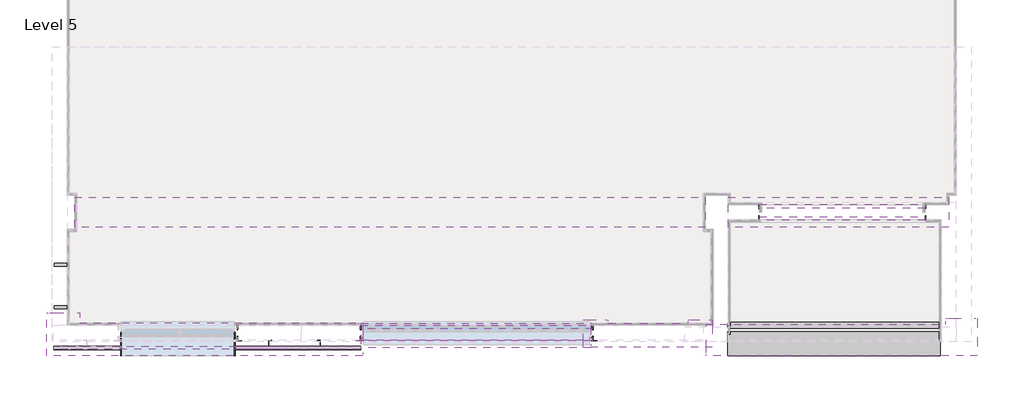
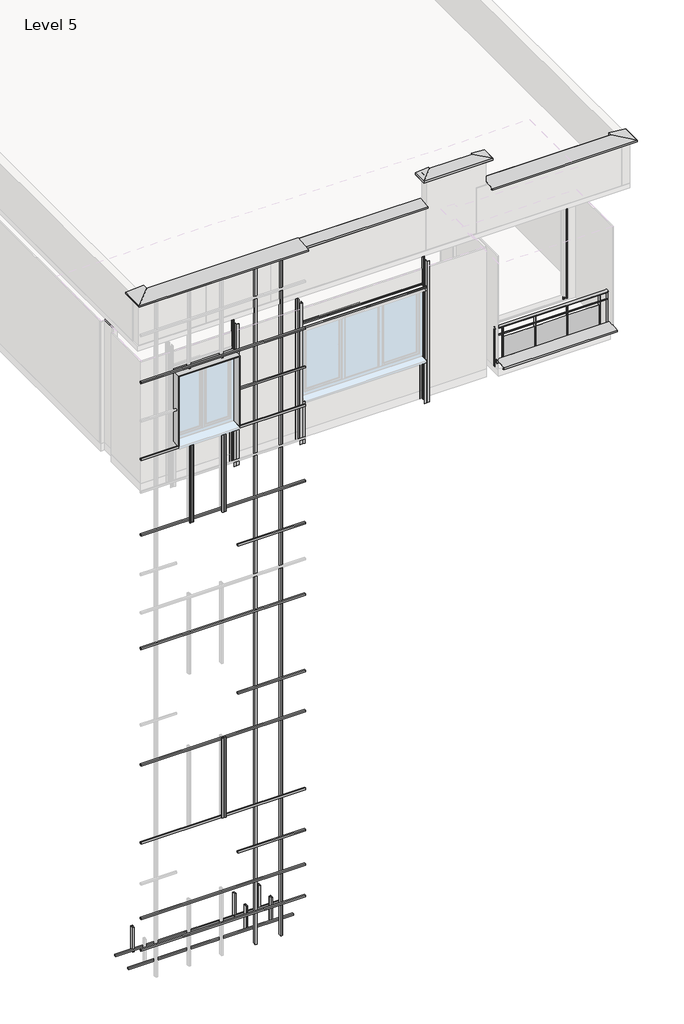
# One storey, part 2 of 2: 39 beams, 5 proxies, 1 railing.
"""IFC4 building model written with IfcOpenShell, lengths in millimetres."""

from ifc_helpers import new_model, si_unit, point, frame, frame_2d, origin, place, context, project, spatial, polyline, circle_curve, ellipse_curve, trimmed, segment, composite_curve, outline, extrude, faceted_brep, transform, mapped, element, save
from ifc_brep_helpers import plane_surface, cylinder_surface, revolved_surface, extruded_surface, advanced_brep
from components import bz1_40_profile_bz1_40_profile_67b9773f, bz1_40_profile_bz1_40_profile_404621f4, bz1_40_profile_bz1_40_profile_d9f1aa51, bz1_80_profile_bz1_80_profile_d67bf5f6, bz1_80_profile_bz1_80_profile_443fb40e, bz1_m_profile_bz1_m_profile_37837105, bz1_m_profile_bz1_m_profile_188adeeb, bz1_l_profile_t01_9d23476b, bz1_l_profile_t01_5d592bfc, bz1_wall_post_200_end_863f2b4e, bz1_wall_post_200_end_6934bf96, bz1_wall_post_200_end_fdf059dd, win_flashing3_win_flashing_c8dd44ad

model = new_model("IFC4")

# Units and contexts
model_context = context("Model", 3, world=origin())
ifc_project = project(units=[si_unit("LENGTHUNIT", "METRE", prefix="MILLI")], contexts=[model_context])

# Site, building, storey
site = spatial("IfcSite", under=ifc_project)
building = spatial("IfcBuilding", under=site)
storey = spatial("IfcBuildingStorey", under=building, Name="Level 5", Elevation=16000.0)

# Beams
placement = place(None, origin())
bz1_40_profile_bz1_40_profile_shape = bz1_40_profile_bz1_40_profile_67b9773f(model_context)
element("IfcBeam", 1, ObjectType="BZ1-40_Profile : BZ1-40_Profile", at=placement, inside=storey, context=model_context, shape_type="MappedRepresentation", body=[
    mapped(bz1_40_profile_bz1_40_profile_shape, transform((-2152.89946, -5799.4647185, 4856.6898939), x_axis=(1.0, 0.0, 0.0), y_axis=(0.0, 0.0, -1.0), z_axis=(0.0, 1.0, 0.0))),
])
element("IfcBeam", 2, ObjectType="BZ1-40_Profile : BZ1-40_Profile", at=placement, inside=storey, context=model_context, shape_type="MappedRepresentation", body=[
    mapped(bz1_40_profile_bz1_40_profile_shape, transform((-2152.89946, -5799.4647185, 14896.6898939), x_axis=(1.0, 0.0, 0.0), y_axis=(0.0, 0.0, -1.0), z_axis=(0.0, 1.0, 0.0))),
])
element("IfcBeam", 3, ObjectType="BZ1-40_Profile : BZ1-40_Profile", at=placement, inside=storey, context=model_context, shape_type="MappedRepresentation", body=[
    mapped(bz1_40_profile_bz1_40_profile_shape, transform((-2152.89946, -5799.4647185, 8876.6898939), x_axis=(1.0, 0.0, 0.0), y_axis=(0.0, 0.0, -1.0), z_axis=(0.0, 1.0, 0.0))),
])
element("IfcBeam", 4, ObjectType="BZ1-40_Profile : BZ1-40_Profile", at=placement, inside=storey, context=model_context, shape_type="MappedRepresentation", body=[
    mapped(bz1_40_profile_bz1_40_profile_shape, transform((-2152.89946, -5799.4647185, 18890.0), x_axis=(1.0, 0.0, 0.0), y_axis=(0.0, 1.0, 0.0), z_axis=(0.0, 0.0, 1.0))),
])
element("IfcBeam", 5, ObjectType="BZ1-40_Profile : BZ1-40_Profile", at=placement, inside=storey, context=model_context, shape_type="MappedRepresentation", body=[
    mapped(bz1_40_profile_bz1_40_profile_shape, transform((-2152.89946, -5799.4647185, 16880.0), x_axis=(1.0, 0.0, 0.0), y_axis=(0.0, 1.0, 0.0), z_axis=(0.0, 0.0, 1.0))),
])
element("IfcBeam", 6, ObjectType="BZ1-40_Profile : BZ1-40_Profile", at=placement, inside=storey, context=model_context, shape_type="MappedRepresentation", body=[
    mapped(bz1_40_profile_bz1_40_profile_shape, transform((-2152.89946, -5799.4647185, 11920.0), x_axis=(1.0, 0.0, 0.0), y_axis=(0.0, 1.0, 0.0), z_axis=(0.0, 0.0, 1.0))),
])
element("IfcBeam", 7, ObjectType="BZ1-40_Profile : BZ1-40_Profile", at=placement, inside=storey, context=model_context, shape_type="MappedRepresentation", body=[
    mapped(bz1_40_profile_bz1_40_profile_shape, transform((-2152.89946, -5799.4647185, 6836.6898939), x_axis=(1.0, 0.0, 0.0), y_axis=(0.0, 1.0, 0.0), z_axis=(0.0, 0.0, 1.0))),
])
element("IfcBeam", 8, ObjectType="BZ1-40_Profile : BZ1-40_Profile", at=placement, inside=storey, context=model_context, shape_type="MappedRepresentation", body=[
    mapped(bz1_40_profile_bz1_40_profile_shape, transform((-2152.89946, -5799.4647185, 4025.0), x_axis=(1.0, 0.0, 0.0), y_axis=(0.0, 1.0, 0.0), z_axis=(0.0, 0.0, 1.0))),
])
bz1_40_profile_bz1_40_profile_2_shape = bz1_40_profile_bz1_40_profile_404621f4(model_context)
element("IfcBeam", 9, ObjectType="BZ1-40_Profile : BZ1-40_Profile", at=placement, inside=storey, context=model_context, shape_type="MappedRepresentation", body=[
    mapped(bz1_40_profile_bz1_40_profile_2_shape, transform((-947.89946, -5799.4647185, 13796.6898939), x_axis=(1.0, 0.0, 0.0), y_axis=(0.0, 0.0, -1.0), z_axis=(0.0, 1.0, 0.0))),
])
element("IfcBeam", 10, ObjectType="BZ1-40_Profile : BZ1-40_Profile", at=placement, inside=storey, context=model_context, shape_type="MappedRepresentation", body=[
    mapped(bz1_40_profile_bz1_40_profile_2_shape, transform((-947.89946, -5799.4647185, 5756.6898939), x_axis=(1.0, 0.0, 0.0), y_axis=(0.0, 0.0, -1.0), z_axis=(0.0, 1.0, 0.0))),
])
element("IfcBeam", 11, ObjectType="BZ1-40_Profile : BZ1-40_Profile", at=placement, inside=storey, context=model_context, shape_type="MappedRepresentation", body=[
    mapped(bz1_40_profile_bz1_40_profile_2_shape, transform((-947.89946, -5799.4647185, 17876.6898939), x_axis=(1.0, 0.0, 0.0), y_axis=(0.0, 0.0, -1.0), z_axis=(0.0, 1.0, 0.0))),
])
element("IfcBeam", 12, ObjectType="BZ1-40_Profile : BZ1-40_Profile", at=placement, inside=storey, context=model_context, shape_type="MappedRepresentation", body=[
    mapped(bz1_40_profile_bz1_40_profile_2_shape, transform((-947.89946, -5799.4647185, 9916.6898939), x_axis=(1.0, 0.0, 0.0), y_axis=(0.0, 0.0, -1.0), z_axis=(0.0, 1.0, 0.0))),
])
bz1_40_profile_bz1_40_profile_3_shape = bz1_40_profile_bz1_40_profile_d9f1aa51(model_context)
element("IfcBeam", 13, ObjectType="BZ1-40_Profile : BZ1-40_Profile", at=placement, inside=storey, context=model_context, shape_type="MappedRepresentation", body=[
    mapped(bz1_40_profile_bz1_40_profile_3_shape, transform((-2138.1382924, -5258.9647185, 3215.1338493), x_axis=(-1.0, 0.0, 0.0), y_axis=(0.0, 1.0, 0.0), z_axis=(0.0, 0.0, -1.0))),
])
element("IfcBeam", 14, ObjectType="BZ1-40_Profile : BZ1-40_Profile", at=placement, inside=storey, context=model_context, shape_type="MappedRepresentation", body=[
    mapped(bz1_40_profile_bz1_40_profile_3_shape, transform((-2138.1382924, -4695.9913902, 3215.1338493), x_axis=(-1.0, 0.0, 0.0), y_axis=(0.0, 1.0, 0.0), z_axis=(0.0, 0.0, -1.0))),
])
bz1_80_profile_bz1_80_profile_shape = bz1_80_profile_bz1_80_profile_d67bf5f6(model_context)
element("IfcBeam", 15, ObjectType="BZ1-80_Profile : BZ1-80_Profile", at=placement, inside=storey, context=model_context, shape_type="MappedRepresentation", body=[
    mapped(bz1_80_profile_bz1_80_profile_shape, transform((-1313.0666589, -5738.9647185, 12079.0), x_axis=(0.0, 0.0, 1.0), y_axis=(-1.0, 0.0, 0.0), z_axis=(0.0, -1.0, 0.0))),
])
element("IfcBeam", 16, ObjectType="BZ1-80_Profile : BZ1-80_Profile", at=placement, inside=storey, context=model_context, shape_type="MappedRepresentation", body=[
    mapped(bz1_80_profile_bz1_80_profile_shape, transform((-673.0666589, -5738.9647185, 12079.0), x_axis=(0.0, 0.0, 1.0), y_axis=(-1.0, 0.0, 0.0), z_axis=(0.0, -1.0, 0.0))),
])
bz1_80_profile_bz1_80_profile_2_shape = bz1_80_profile_bz1_80_profile_443fb40e(model_context)
element("IfcBeam", 17, ObjectType="BZ1-80_Profile : BZ1-80_Profile", at=placement, inside=storey, context=model_context, shape_type="MappedRepresentation", body=[
    mapped(bz1_80_profile_bz1_80_profile_2_shape, transform((-1223.0666589, -5187.8329808, 3479.0), x_axis=(0.0, 0.0, 1.0), y_axis=(-1.0, 0.0, 0.0), z_axis=(0.0, -1.0, 0.0))),
])
element("IfcBeam", 18, ObjectType="BZ1-80_Profile : BZ1-80_Profile", at=placement, inside=storey, context=model_context, shape_type="MappedRepresentation", body=[
    mapped(bz1_80_profile_bz1_80_profile_2_shape, transform((-608.0666589, -5187.8329808, 3479.0), x_axis=(0.0, 0.0, 1.0), y_axis=(-1.0, 0.0, 0.0), z_axis=(0.0, -1.0, 0.0))),
])
element("IfcBeam", 19, ObjectType="BZ1-80_Profile : BZ1-80_Profile", at=placement, inside=storey, context=model_context, shape_type="MappedRepresentation", body=[
    mapped(bz1_80_profile_bz1_80_profile_2_shape, transform((-3733.0666589, -4668.8329808, 3479.0), x_axis=(0.0, 0.0, 1.0), y_axis=(-1.0, 0.0, 0.0), z_axis=(0.0, -1.0, 0.0))),
])
element("IfcBeam", 20, ObjectType="BZ1-80_Profile : BZ1-80_Profile", at=placement, inside=storey, context=model_context, shape_type="MappedRepresentation", body=[
    mapped(bz1_80_profile_bz1_80_profile_2_shape, transform((-1213.0666589, -4668.8329808, 3479.0), x_axis=(0.0, 0.0, 1.0), y_axis=(-1.0, 0.0, 0.0), z_axis=(0.0, -1.0, 0.0))),
])
element("IfcBeam", 21, ObjectType="BZ1-80_Profile : BZ1-80_Profile", at=placement, inside=storey, context=model_context, shape_type="MappedRepresentation", body=[
    mapped(bz1_80_profile_bz1_80_profile_2_shape, transform((-608.0666589, -4668.8329808, 3479.0), x_axis=(0.0, 0.0, 1.0), y_axis=(-1.0, 0.0, 0.0), z_axis=(0.0, -1.0, 0.0))),
])
bz1_m_profile_bz1_m_profile_shape = bz1_m_profile_bz1_m_profile_37837105(model_context)
element("IfcBeam", 22, ObjectType="BZ1-M_Profile : BZ1-M_Profile", at=placement, inside=storey, context=model_context, shape_type="MappedRepresentation", body=[
    mapped(bz1_m_profile_bz1_m_profile_shape, transform((-2144.3166589, -5821.9647185, 15858.5), x_axis=(0.0, 0.0, -1.0), y_axis=(1.0, 0.0, 0.0), z_axis=(0.0, -1.0, 0.0))),
])
element("IfcBeam", 23, ObjectType="BZ1-M_Profile : BZ1-M_Profile", at=placement, inside=storey, context=model_context, shape_type="MappedRepresentation", body=[
    mapped(bz1_m_profile_bz1_m_profile_shape, transform((-2944.3166589, -5821.9647185, 15858.5), x_axis=(0.0, 0.0, -1.0), y_axis=(1.0, 0.0, 0.0), z_axis=(0.0, -1.0, 0.0))),
])
bz1_m_profile_bz1_m_profile_2_shape = bz1_m_profile_bz1_m_profile_188adeeb(model_context)
element("IfcBeam", 24, ObjectType="BZ1-M_Profile : BZ1-M_Profile", at=placement, inside=storey, context=model_context, shape_type="MappedRepresentation", body=[
    mapped(bz1_m_profile_bz1_m_profile_2_shape, transform((-2144.3166589, -5821.9647185, 7852.5), x_axis=(0.0, 0.0, -1.0), y_axis=(1.0, 0.0, 0.0), z_axis=(0.0, -1.0, 0.0))),
])
element("IfcBeam", 25, ObjectType="BZ1_L Profile : T01", at=placement, inside=storey, context=model_context, shape_type="SweptSolid", body=[
    extrude(outline(composite_curve([segment(trimmed(circle_curve(frame_2d((-5497.4647185, 18851.5)), 3.5), [point((-5500.9647185, 18851.5))], [point((-5497.4647185, 18855.0))], False, "CARTESIAN"), True, "CONTINUOUS"), segment(polyline([(-5497.4647185, 18855.0), (-5495.9647185, 18855.0), (-5495.9647185, 18805.0), (-5545.9647185, 18805.0), (-5545.9647185, 18806.5)]), True, "CONTINUOUS"), segment(trimmed(circle_curve(frame_2d((-5542.4647185, 18806.5)), 3.5), [point((-5545.9647185, 18806.5))], [point((-5542.4647185, 18810.0))], False, "CARTESIAN"), True, "CONTINUOUS"), segment(polyline([(-5542.4647185, 18810.0), (-5507.9647185, 18810.0)]), True, "CONTINUOUS"), segment(trimmed(circle_curve(frame_2d((-5507.9647185, 18817.0)), 7.0), [point((-5507.9647185, 18810.0))], [point((-5500.9647185, 18817.0))], True, "CARTESIAN"), True, "CONTINUOUS"), segment(polyline([(-5500.9647185, 18817.0), (-5500.9647185, 18851.5)]), True, "CONTINUOUS")], self_intersect=False)), frame((-115.5666589, 0.0, 0.0), z_axis=(1.0, 0.0, 0.0), x_axis=(0.0, 1.0, 0.0)), (0.0, 0.0, 1.0), 3080.0),
])
element("IfcBeam", 26, ObjectType="BZ1_L Profile : T01", at=placement, inside=storey, context=model_context, shape_type="AdvancedBrep", body=[
    advanced_brep(
    [(-115.5666589, -5659.4647185, 18810.0), (-115.5666589, -5655.9647185, 18806.5), (-115.5666589, -5655.9647185, 18805.0), (-115.5666589, -5705.9647185, 18805.0), (-115.5666589, -5705.9647185, 18855.0), (-115.5666589, -5704.4647185, 18855.0), (-115.5666589, -5700.9647185, 18851.5), (-115.5666589, -5700.9647185, 18817.0), (-115.5666589, -5693.9647185, 18810.0), (2964.4333411, -5659.4647185, 18810.0), (2964.4333411, -5693.0356138, 18810.0), (2964.4333411, -5693.9647185, 18810.0), (2964.4333411, -5700.9647185, 18817.0), (2964.4333411, -5700.9647185, 18851.5), (2964.4333411, -5704.4647185, 18855.0), (2964.4333411, -5705.9647185, 18855.0), (2964.4333411, -5705.9647185, 18805.0), (2964.4333411, -5655.9647185, 18805.0), (2964.4333411, -5655.9647185, 18806.5), (-100.2322612, -5693.9647185, 18810.0), (-100.2322612, -5659.4647185, 18810.0), (2924.4333411, -5693.9647185, 18810.0), (-100.2322612, -5705.9647185, 18805.0), (-100.2322612, -5705.9647185, 18810.0), (2924.4333411, -5705.9647185, 18810.0), (2924.4333411, -5705.9647185, 18805.0), (-100.2322612, -5655.9647185, 18805.0), (-100.2322612, -5655.9647185, 18806.5), (2924.4333411, -5655.9647185, 18806.5), (2924.4333411, -5659.4647185, 18810.0), (2924.4333411, -5700.9799478, 18810.0), (-100.2322612, -5700.9799478, 18810.0), (2924.4333411, -5655.9647185, 18805.0)],
    [
        (0, 1, circle_curve(frame((-115.5666589, -5659.4647185, 18806.5), z_axis=(-1.0, 0.0, 0.0), x_axis=(0.0, 1.0, 0.0)), 3.5)),
        (1, 2),
        (2, 3),
        (3, 4),
        (4, 5),
        (5, 6, circle_curve(frame((-115.5666589, -5704.4647185, 18851.5), z_axis=(-1.0, 0.0, 0.0), x_axis=(0.0, 1.0, 0.0)), 3.5)),
        (6, 7),
        (7, 8, circle_curve(frame((-115.5666589, -5693.9647185, 18817.0), z_axis=(1.0, 0.0, 0.0), x_axis=(0.0, 1.0, 0.0)), 7.0)),
        (8, 0),
        (9, 10),
        (10, 11),
        (11, 12, circle_curve(frame((2964.4333411, -5693.9647185, 18817.0), z_axis=(-1.0, 0.0, 0.0), x_axis=(0.0, 1.0, 0.0)), 7.0)),
        (12, 13),
        (13, 14, circle_curve(frame((2964.4333411, -5704.4647185, 18851.5), z_axis=(1.0, 0.0, 0.0), x_axis=(0.0, 1.0, 0.0)), 3.5)),
        (14, 15),
        (15, 16),
        (16, 17),
        (17, 18),
        (18, 9, circle_curve(frame((2964.4333411, -5659.4647185, 18806.5), z_axis=(1.0, 0.0, 0.0), x_axis=(0.0, 1.0, 0.0)), 3.5)),
        (8, 19),
        (19, 20),
        (20, 0),
        (7, 12),
        (11, 21),
        (21, 19),
        (6, 13),
        (5, 14),
        (4, 15),
        (3, 22),
        (22, 23),
        (23, 24),
        (24, 25),
        (25, 16),
        (2, 26),
        (26, 22),
        (1, 27),
        (27, 26),
        (18, 28),
        (28, 29, circle_curve(frame((2924.4333411, -5659.4647185, 18806.5), z_axis=(1.0, 0.0, 0.0), x_axis=(0.0, 1.0, 0.0)), 3.5)),
        (29, 9),
        (21, 30),
        (30, 24),
        (23, 31),
        (31, 19),
        (21, 29),
        (28, 32),
        (32, 25),
        (27, 20, circle_curve(frame((-100.2322612, -5659.4647185, 18806.5), z_axis=(1.0, 0.0, 0.0), x_axis=(0.0, 1.0, 0.0)), 3.5)),
        (32, 17),
    ],
    [
        plane_surface(frame((-115.5666589, -5700.9647185, 18810.0), z_axis=(-1.0, 0.0, 0.0), x_axis=(0.0, 0.0, -1.0))),
        plane_surface(frame((2964.4333411, -5700.9647185, 18810.0), z_axis=(1.0, 0.0, 0.0), x_axis=(0.0, 0.0, -1.0))),
        plane_surface(frame((-115.5666589, -5659.4647185, 18810.0), z_axis=(0.0, 0.0, 1.0), x_axis=(1.0, 0.0, 0.0))),
        revolved_surface(polyline([(2964.4333411, -5686.9647185, 18817.0), (-115.5666589, -5686.9647185, 18817.0)]), (-115.5666589, -5693.9647185, 18817.0), (1.0, 0.0, 0.0)),
        plane_surface(frame((-115.5666589, -5700.9647185, 18817.0), z_axis=(0.0, 1.0, 0.0), x_axis=(1.0, 0.0, 0.0))),
        cylinder_surface(frame((-115.5666589, -5704.4647185, 18851.5), z_axis=(-1.0, 0.0, 0.0), x_axis=(0.0, 1.0, 0.0)), 3.5),
        plane_surface(frame((-115.5666589, -5704.4647185, 18855.0), z_axis=(0.0, 0.0, 1.0), x_axis=(1.0, 0.0, 0.0))),
        plane_surface(frame((-115.5666589, -5705.9647185, 18855.0), z_axis=(0.0, -1.0, 0.0), x_axis=(1.0, 0.0, 0.0))),
        plane_surface(frame((-115.5666589, -5705.9647185, 18805.0), z_axis=(0.0, 0.0, -1.0), x_axis=(1.0, 0.0, 0.0))),
        plane_surface(frame((-115.5666589, -5655.9647185, 18805.0), z_axis=(0.0, 1.0, 0.0), x_axis=(1.0, 0.0, 0.0))),
        cylinder_surface(frame((-115.5666589, -5659.4647185, 18806.5), z_axis=(-1.0, 0.0, 0.0), x_axis=(0.0, 1.0, 0.0)), 3.5),
        plane_surface(frame((2969.4333411, -5567.6133875, 18810.0), z_axis=(0.0, 0.0, -1.0), x_axis=(-1.0, 0.0, 0.0))),
        plane_surface(frame((2924.4333411, -5567.6133875, 18770.0), z_axis=(-1.0, 0.0, 0.0), x_axis=(0.0, 0.0, 1.0))),
        plane_surface(frame((-100.2322612, -5743.4647185, 18770.0), z_axis=(1.0, 0.0, 0.0), x_axis=(0.0, 0.0, 1.0))),
    ],
    [
        (0, [[1, 2, 3, 4, 5, 6, 7, 8, 9]]),
        (1, [[10, 11, 12, 13, 14, 15, 16, 17, 18, 19]]),
        (2, [[-9, 20, 21, 22]]),
        (3, [[-8, 23, -12, 24, 25, -20]]),
        (4, [[-7, 26, -13, -23]]),
        (5, [[-6, 27, -14, -26]]),
        (6, [[-5, 28, -15, -27]]),
        (7, [[-4, 29, 30, 31, 32, 33, -16, -28]]),
        (8, [[-3, 34, 35, -29]]),
        (9, [[-2, 36, 37, -34]]),
        (10, [[-19, 38, 39, 40]]),
        (11, [[41, 42, -31, 43, 44, -25]]),
        (12, [[-42, -41, 45, -39, 46, 47, -32]]),
        (13, [[-44, -43, -30, -35, -37, 48, -21]]),
        (2, [[-11, -10, -40, -45, -24]]),
        (8, [[-17, -33, -47, 49]]),
        (9, [[-18, -49, -46, -38]]),
        (10, [[-1, -22, -48, -36]]),
    ],
),
])
bz1_l_profile_t01_shape = bz1_l_profile_t01_9d23476b(model_context)
element("IfcBeam", 27, ObjectType="BZ1_L Profile : T01", at=placement, inside=storey, context=model_context, shape_type="MappedRepresentation", body=[
    mapped(bz1_l_profile_t01_shape, transform((5174.4333411, -4100.9647185, 18405.0), x_axis=(1.0, 0.0, 0.0), y_axis=(0.0, -1.0, 0.0), z_axis=(0.0, 0.0, -1.0))),
])
bz1_l_profile_t01_2_shape = bz1_l_profile_t01_5d592bfc(model_context)
element("IfcBeam", 28, ObjectType="BZ1_L Profile : T01", at=placement, inside=storey, context=model_context, shape_type="MappedRepresentation", body=[
    mapped(bz1_l_profile_t01_2_shape, transform((5174.4333411, -3900.9647185, 18405.0), x_axis=(1.0, 0.0, 0.0), y_axis=(0.0, -1.0, 0.0), z_axis=(0.0, 0.0, -1.0))),
])
bz1_wall_post_200_end_shape = bz1_wall_post_200_end_863f2b4e(model_context)
element("IfcBeam", 29, ObjectType="BZ1_Wall post : 200 END", at=placement, inside=storey, context=model_context, shape_type="MappedRepresentation", body=[
    mapped(bz1_wall_post_200_end_shape, transform((5174.4333411, -4000.9647185, 16000.0), x_axis=(-1.0, 0.0, 0.0), y_axis=(0.0, -1.0, 0.0), z_axis=(0.0, 0.0, 1.0))),
])
element("IfcBeam", 30, ObjectType="BZ1_Wall post : 200 END", at=placement, inside=storey, context=model_context, shape_type="MappedRepresentation", body=[
    mapped(bz1_wall_post_200_end_shape, transform((7374.4333411, -4000.9647185, 15800.0), x_axis=(1.0, 0.0, 0.0), y_axis=(0.0, 1.0, 0.0), z_axis=(0.0, 0.0, 1.0))),
])
element("IfcBeam", 31, ObjectType="BZ1_Wall post : 200 END", at=placement, inside=storey, context=model_context, shape_type="MappedRepresentation", body=[
    mapped(bz1_wall_post_200_end_shape, transform((-1750.5666589, -5600.9647185, 15800.0), x_axis=(1.0, 0.0, 0.0), y_axis=(0.0, 1.0, 0.0), z_axis=(0.0, 0.0, 1.0))),
])
element("IfcBeam", 32, ObjectType="BZ1_Wall post : 200 END", at=placement, inside=storey, context=model_context, shape_type="MappedRepresentation", body=[
    mapped(bz1_wall_post_200_end_shape, transform((2964.4333411, -5600.9647185, 15800.0), x_axis=(1.0, 0.0, 0.0), y_axis=(0.0, 1.0, 0.0), z_axis=(0.0, 0.0, 1.0))),
])
element("IfcBeam", 33, ObjectType="BZ1_Wall post : 200 END", at=placement, inside=storey, context=model_context, shape_type="MappedRepresentation", body=[
    mapped(bz1_wall_post_200_end_shape, transform((-115.5666589, -5600.9647185, 15800.0), x_axis=(-1.0, 0.0, 0.0), y_axis=(0.0, -1.0, 0.0), z_axis=(0.0, 0.0, 1.0))),
])
bz1_wall_post_200_end_2_shape = bz1_wall_post_200_end_6934bf96(model_context)
element("IfcBeam", 34, ObjectType="BZ1_Wall post : 200 END", at=placement, inside=storey, context=model_context, shape_type="MappedRepresentation", body=[
    mapped(bz1_wall_post_200_end_2_shape, transform((-115.5666589, -5600.9647185, 15800.0), x_axis=(1.0, 0.0, 0.0), y_axis=(0.0, 1.0, 0.0), z_axis=(0.0, 0.0, 1.0))),
])
bz1_wall_post_200_end_3_shape = bz1_wall_post_200_end_fdf059dd(model_context)
element("IfcBeam", 35, ObjectType="BZ1_Wall post : 200 END", at=placement, inside=storey, context=model_context, shape_type="MappedRepresentation", body=[
    mapped(bz1_wall_post_200_end_3_shape, transform((2964.4333411, -5600.9647185, 15800.0), x_axis=(-1.0, 0.0, 0.0), y_axis=(0.0, -1.0, 0.0), z_axis=(0.0, 0.0, 1.0))),
])
element("IfcBeam", 36, ObjectType="BZ1_Wall post : 200 END", at=placement, inside=storey, context=model_context, shape_type="MappedRepresentation", body=[
    mapped(bz1_wall_post_200_end_3_shape, transform((-1750.5666589, -5600.9647185, 15800.0), x_axis=(-1.0, 0.0, 0.0), y_axis=(0.0, -1.0, 0.0), z_axis=(0.0, 0.0, 1.0))),
])
element("IfcBeam", 37, ObjectType="M_Concrete-Rectangular Beam : 400 x 600mm", at=placement, inside=storey, context=model_context, shape_type="SweptSolid", body=[
    extrude(outline(polyline([(4459.4333411, -3800.9647185), (4459.4333411, -4200.9647185), (-3910.5666589, -4200.9647185), (-3910.5666589, -3800.9647185), (4459.4333411, -3800.9647185)])), frame((0.0, 0.0, 19200.0), z_axis=(0.0, 0.0, 1.0), x_axis=(1.0, 0.0, 0.0)), (0.0, 0.0, 1.0), 470.0),
])
element("IfcBeam", 38, ObjectType="M_Concrete-Rectangular Beam : 400 x 600mm", at=placement, inside=storey, context=model_context, shape_type="SweptSolid", body=[
    extrude(outline(polyline([(4759.4333411, -4200.9647185), (4759.4333411, -3800.9647185), (7689.4333411, -3800.9647185), (7689.4333411, -4200.9647185), (4759.4333411, -4200.9647185)])), frame((0.0, 0.0, 19200.0), z_axis=(0.0, 0.0, 1.0), x_axis=(1.0, 0.0, 0.0)), (0.0, 0.0, 1.0), 470.0),
])
win_flashing3_win_flashing_shape = win_flashing3_win_flashing_c8dd44ad(model_context)
element("IfcBeam", 39, ObjectType="win-flashing3 : win-flashing", at=placement, inside=storey, context=model_context, shape_type="MappedRepresentation", body=[
    mapped(win_flashing3_win_flashing_shape, transform((0.0, 0.0, 0.0), x_axis=(1.0, 0.0, 0.0), y_axis=(0.0, 1.0, 0.0), z_axis=(0.0, 0.0, 1.0))),
])

# Proxies
element("IfcBuildingElementProxy", 40, Name="Wall Sweeps", at=placement, inside=storey, context=model_context, shape_type="SweptSolid", body=[
    extrude(outline(polyline([(-5906.4010883, 16209.8257), (-5584.774646, 16239.7589035), (-5584.774646, 16153.8282212), (-5584.774646, 16141.454394), (-5614.774646, 16141.454394), (-5614.774646, 16155.8282212), (-5612.774646, 16155.8282212), (-5612.774646, 16143.454394), (-5586.774646, 16143.454394), (-5586.774646, 16237.564124), (-5904.4010883, 16208.0031934), (-5904.4010883, 16163.454394), (-5864.4010883, 16163.454394), (-5864.4010883, 16141.454394), (-5866.4010883, 16141.454394), (-5866.4010883, 16161.454394), (-5906.4010883, 16161.454394), (-5906.4010883, 16209.8257)])), frame((4754.9516805, 0.0, 0.0), z_axis=(1.0, 0.0, 0.0), x_axis=(0.0, 1.0, 0.0)), (0.0, 0.0, 1.0), 2819.4763902),
])
element("IfcBuildingElementProxy", 41, Name="BZ1_Roof flash25", ObjectType="BZ1_Roof flash25", at=placement, inside=storey, context=model_context, shape_type="SweptSolid", body=[
    extrude(outline(polyline([(-5794.5103245, 20997.3257), (-5472.8838822, 21027.2589035), (-5472.8838822, 20941.3282212), (-5472.8838822, 20928.954394), (-5502.8838822, 20928.954394), (-5502.8838822, 20943.3282212), (-5500.8838822, 20943.3282212), (-5500.8838822, 20930.954394), (-5474.8838822, 20930.954394), (-5474.8838822, 21025.064124), (-5792.5103245, 20995.5031934), (-5792.5103245, 20950.954394), (-5752.5103245, 20950.954394), (-5752.5103245, 20928.954394), (-5754.5103245, 20928.954394), (-5754.5103245, 20948.954394), (-5794.5103245, 20948.954394), (-5794.5103245, 20997.3257)])), frame((-109.3166589, 0.0, 0.0), z_axis=(1.0, 0.0, 0.0), x_axis=(0.0, 1.0, 0.0)), (0.0, 0.0, 1.0), 3048.75),
])
element("IfcBuildingElementProxy", 42, Name="BZ1_Roof flash25", ObjectType="BZ1_Roof flash25", at=placement, inside=storey, context=model_context, shape_type="Brep", body=[
    faceted_brep([(3161.9340046, -5471.4181034, 21724.6327255), (2840.3075623, -5793.0445457, 21694.699522), (4552.3987743, -5793.0445457, 21694.699522), (4230.772332, -5471.4181034, 21724.6327255), (3161.9340046, -5471.4181034, 21638.7020432), (4230.772332, -5471.4181034, 21638.7020432), (3161.9340046, -5471.4181034, 21626.328216), (4230.772332, -5471.4181034, 21626.328216), (3131.9340046, -5501.4181034, 21626.328216), (4260.772332, -5501.4181034, 21626.328216), (3131.9340046, -5501.4181034, 21640.7020432), (4260.772332, -5501.4181034, 21640.7020432), (3133.9340046, -5499.4181034, 21628.328216), (3133.9340046, -5499.4181034, 21640.7020432), (4258.772332, -5499.4181034, 21640.7020432), (4258.772332, -5499.4181034, 21628.328216), (3159.9340046, -5473.4181034, 21628.328216), (4232.772332, -5473.4181034, 21628.328216), (3159.9340046, -5473.4181034, 21722.437946), (4232.772332, -5473.4181034, 21722.437946), (2842.3075623, -5791.0445457, 21692.8770154), (4550.3987743, -5791.0445457, 21692.8770154), (2842.3075623, -5791.0445457, 21648.328216), (4550.3987743, -5791.0445457, 21648.328216), (2882.3075623, -5751.0445457, 21648.328216), (4510.3987743, -5751.0445457, 21648.328216), (2882.3075623, -5751.0445457, 21626.328216), (4510.3987743, -5751.0445457, 21626.328216), (2880.3075623, -5753.0445457, 21626.328216), (4512.3987743, -5753.0445457, 21626.328216), (2880.3075623, -5753.0445457, 21646.328216), (4512.3987743, -5753.0445457, 21646.328216), (2840.3075623, -5793.0445457, 21646.328216), (4552.3987743, -5793.0445457, 21646.328216), (2840.3075623, -5426.9989397, 21694.699522), (3161.9340046, -5426.9989397, 21724.6327255), (3161.9340046, -5426.9989397, 21638.7020432), (3161.9340046, -5426.9989397, 21626.328216), (3131.9340046, -5426.9989397, 21626.328216), (3131.9340046, -5426.9989397, 21640.7020432), (3133.9340046, -5426.9989397, 21640.7020432), (3133.9340046, -5426.9989397, 21628.328216), (3159.9340046, -5426.9989397, 21628.328216), (3159.9340046, -5426.9989397, 21722.437946), (2842.3075623, -5426.9989397, 21692.8770154), (2842.3075623, -5426.9989397, 21648.328216), (2882.3075623, -5426.9989397, 21648.328216), (2882.3075623, -5426.9989397, 21626.328216), (2880.3075623, -5426.9989397, 21626.328216), (2880.3075623, -5426.9989397, 21646.328216), (2840.3075623, -5426.9989397, 21646.328216), (4552.3987743, -5426.9989397, 21694.699522), (4552.3987743, -5426.9989397, 21646.328216), (4512.3987743, -5426.9989397, 21646.328216), (4512.3987743, -5426.9989397, 21626.328216), (4510.3987743, -5426.9989397, 21626.328216), (4510.3987743, -5426.9989397, 21648.328216), (4550.3987743, -5426.9989397, 21648.328216), (4550.3987743, -5426.9989397, 21692.8770154), (4232.772332, -5426.9989397, 21722.437946), (4232.772332, -5426.9989397, 21628.328216), (4258.772332, -5426.9989397, 21628.328216), (4258.772332, -5426.9989397, 21640.7020432), (4260.772332, -5426.9989397, 21640.7020432), (4260.772332, -5426.9989397, 21626.328216), (4230.772332, -5426.9989397, 21626.328216), (4230.772332, -5426.9989397, 21638.7020432), (4230.772332, -5426.9989397, 21724.6327255)], [[[0, 1, 2, 3]], [[4, 0, 3, 5]], [[6, 4, 5, 7]], [[8, 6, 7, 9]], [[10, 8, 9, 11]], [[12, 13, 14, 15]], [[16, 12, 15, 17]], [[18, 16, 17, 19]], [[20, 18, 19, 21]], [[22, 20, 21, 23]], [[24, 22, 23, 25]], [[26, 24, 25, 27]], [[28, 26, 27, 29]], [[30, 28, 29, 31]], [[32, 30, 31, 33]], [[1, 32, 33, 2]], [[34, 35, 36, 37, 38, 39, 40, 41, 42, 43, 44, 45, 46, 47, 48, 49, 50]], [[35, 34, 1, 0]], [[36, 35, 0, 4]], [[37, 36, 4, 6]], [[38, 37, 6, 8]], [[39, 38, 8, 10]], [[41, 40, 13, 12]], [[42, 41, 12, 16]], [[43, 42, 16, 18]], [[44, 43, 18, 20]], [[45, 44, 20, 22]], [[46, 45, 22, 24]], [[47, 46, 24, 26]], [[48, 47, 26, 28]], [[49, 48, 28, 30]], [[50, 49, 30, 32]], [[34, 50, 32, 1]], [[51, 52, 53, 54, 55, 56, 57, 58, 59, 60, 61, 62, 63, 64, 65, 66, 67]], [[3, 2, 51, 67]], [[5, 3, 67, 66]], [[7, 5, 66, 65]], [[9, 7, 65, 64]], [[11, 9, 64, 63]], [[15, 14, 62, 61]], [[17, 15, 61, 60]], [[19, 17, 60, 59]], [[21, 19, 59, 58]], [[23, 21, 58, 57]], [[25, 23, 57, 56]], [[27, 25, 56, 55]], [[29, 27, 55, 54]], [[31, 29, 54, 53]], [[33, 31, 53, 52]], [[2, 33, 52, 51]], [[40, 39, 10, 13]], [[13, 10, 11, 14]], [[14, 11, 63, 62]]]),
])
element("IfcBuildingElementProxy", 43, Name="BZ1_Roof flash3", ObjectType="BZ1_Roof flash3", at=placement, inside=storey, context=model_context, shape_type="Brep", body=[
    faceted_brep([(-89.3166589, -5907.0103245, 20999.5881948), (-89.3166589, -5907.0103245, 20961.454394), (-89.3166589, -5867.0103245, 20961.454394), (-89.3166589, -5867.0103245, 20941.454394), (-89.3166589, -5865.0103245, 20941.454394), (-89.3166589, -5865.0103245, 20963.454394), (-89.3166589, -5905.0103245, 20963.454394), (-89.3166589, -5905.0103245, 20997.7656882), (-89.3166589, -5469.8838822, 21038.2621358), (-89.3166589, -5469.8838822, 20943.454394), (-89.3166589, -5495.8838822, 20943.454394), (-89.3166589, -5495.8838822, 20955.8282212), (-89.3166589, -5497.8838822, 20955.8282212), (-89.3166589, -5497.8838822, 20941.454394), (-89.3166589, -5467.8838822, 20941.454394), (-89.3166589, -5467.8838822, 20953.8282212), (-89.3166589, -5467.8838822, 21040.4569152), (-3844.9858226, -5467.8838822, 21040.4569152), (-4284.1122649, -5907.0103245, 20999.5881948), (-3844.9858226, -5467.8838822, 20953.8282212), (-3844.9858226, -5467.8838822, 20941.454394), (-3874.9858226, -5497.8838822, 20941.454394), (-3874.9858226, -5497.8838822, 20955.8282212), (-3872.9858226, -5495.8838822, 20955.8282212), (-3872.9858226, -5495.8838822, 20943.454394), (-3846.9858226, -5469.8838822, 20943.454394), (-3846.9858226, -5469.8838822, 21038.2621358), (-4282.1122649, -5905.0103245, 20997.7656882), (-4282.1122649, -5905.0103245, 20963.454394), (-4242.1122649, -5865.0103245, 20963.454394), (-4242.1122649, -5865.0103245, 20941.454394), (-4244.1122649, -5867.0103245, 20941.454394), (-4244.1122649, -5867.0103245, 20961.454394), (-4284.1122649, -5907.0103245, 20961.454394), (-4284.1122649, -5333.4647185, 20999.5881948), (-3844.9858226, -5333.4647185, 21040.4569152), (-3844.9858226, -5333.4647185, 20953.8282212), (-3844.9858226, -5333.4647185, 20941.454394), (-3874.9858226, -5333.4647185, 20941.454394), (-3874.9858226, -5333.4647185, 20955.8282212), (-3872.9858226, -5333.4647185, 20955.8282212), (-3872.9858226, -5333.4647185, 20943.454394), (-3846.9858226, -5333.4647185, 20943.454394), (-3846.9858226, -5333.4647185, 21038.2621358), (-4282.1122649, -5333.4647185, 20997.7656882), (-4282.1122649, -5333.4647185, 20963.454394), (-4242.1122649, -5333.4647185, 20963.454394), (-4242.1122649, -5333.4647185, 20941.454394), (-4244.1122649, -5333.4647185, 20941.454394), (-4244.1122649, -5333.4647185, 20961.454394), (-4284.1122649, -5333.4647185, 20961.454394)], [[[0, 1, 2, 3, 4, 5, 6, 7, 8, 9, 10, 11, 12, 13, 14, 15, 16]], [[17, 18, 0, 16]], [[19, 17, 16, 15]], [[20, 19, 15, 14]], [[21, 20, 14, 13]], [[22, 21, 13, 12]], [[23, 22, 12, 11]], [[24, 23, 11, 10]], [[25, 24, 10, 9]], [[26, 25, 9, 8]], [[27, 26, 8, 7]], [[28, 27, 7, 6]], [[29, 28, 6, 5]], [[30, 29, 5, 4]], [[31, 30, 4, 3]], [[32, 31, 3, 2]], [[33, 32, 2, 1]], [[18, 33, 1, 0]], [[34, 35, 36, 37, 38, 39, 40, 41, 42, 43, 44, 45, 46, 47, 48, 49, 50]], [[35, 34, 18, 17]], [[36, 35, 17, 19]], [[37, 36, 19, 20]], [[38, 37, 20, 21]], [[39, 38, 21, 22]], [[40, 39, 22, 23]], [[41, 40, 23, 24]], [[42, 41, 24, 25]], [[43, 42, 25, 26]], [[44, 43, 26, 27]], [[45, 44, 27, 28]], [[46, 45, 28, 29]], [[47, 46, 29, 30]], [[48, 47, 30, 31]], [[49, 48, 31, 32]], [[50, 49, 32, 33]], [[34, 50, 33, 18]]]),
])
element("IfcBuildingElementProxy", 44, Name="BZ1_Roof flash36", ObjectType="BZ1_Roof flash36", at=placement, inside=storey, context=model_context, shape_type="Brep", body=[
    faceted_brep([(4469.9516805, -5907.0103245, 21003.0188771), (4469.9516805, -5485.3838822, 21042.2589035), (4469.9516805, -5485.3838822, 20956.3282212), (4469.9516805, -5485.3838822, 20943.954394), (4469.9516805, -5515.3838822, 20943.954394), (4469.9516805, -5515.3838822, 20958.3282212), (4469.9516805, -5513.3838822, 20958.3282212), (4469.9516805, -5513.3838822, 20945.954394), (4469.9516805, -5487.3838822, 20945.954394), (4469.9516805, -5487.3838822, 21040.064124), (4469.9516805, -5905.0103245, 21001.1963705), (4469.9516805, -5905.0103245, 20965.954394), (4469.9516805, -5865.0103245, 20965.954394), (4469.9516805, -5865.0103245, 20943.954394), (4469.9516805, -5867.0103245, 20943.954394), (4469.9516805, -5867.0103245, 20963.954394), (4469.9516805, -5907.0103245, 20963.954394), (8068.4972865, -5907.0103245, 21003.0188771), (7646.8708442, -5485.3838822, 21042.2589035), (7646.8708442, -5485.3838822, 20956.3282212), (7646.8708442, -5485.3838822, 20943.954394), (7676.8708442, -5515.3838822, 20943.954394), (7676.8708442, -5515.3838822, 20958.3282212), (7674.8708442, -5513.3838822, 20958.3282212), (7674.8708442, -5513.3838822, 20945.954394), (7648.8708442, -5487.3838822, 20945.954394), (7648.8708442, -5487.3838822, 21040.064124), (8066.4972865, -5905.0103245, 21001.1963705), (8066.4972865, -5905.0103245, 20965.954394), (8026.4972865, -5865.0103245, 20965.954394), (8026.4972865, -5865.0103245, 20943.954394), (8028.4972865, -5867.0103245, 20943.954394), (8028.4972865, -5867.0103245, 20963.954394), (8068.4972865, -5907.0103245, 20963.954394), (8068.4972865, -5403.4647185, 21003.0188771), (8068.4972865, -5403.4647185, 20963.954394), (8028.4972865, -5403.4647185, 20963.954394), (8028.4972865, -5403.4647185, 20943.954394), (8026.4972865, -5403.4647185, 20943.954394), (8026.4972865, -5403.4647185, 20965.954394), (8066.4972865, -5403.4647185, 20965.954394), (8066.4972865, -5403.4647185, 21001.1963705), (7648.8708442, -5403.4647185, 21040.064124), (7648.8708442, -5403.4647185, 20945.954394), (7674.8708442, -5403.4647185, 20945.954394), (7674.8708442, -5403.4647185, 20958.3282212), (7676.8708442, -5403.4647185, 20958.3282212), (7676.8708442, -5403.4647185, 20943.954394), (7646.8708442, -5403.4647185, 20943.954394), (7646.8708442, -5403.4647185, 20956.3282212), (7646.8708442, -5403.4647185, 21042.2589035)], [[[0, 1, 2, 3, 4, 5, 6, 7, 8, 9, 10, 11, 12, 13, 14, 15, 16]], [[1, 0, 17, 18]], [[2, 1, 18, 19]], [[3, 2, 19, 20]], [[4, 3, 20, 21]], [[5, 4, 21, 22]], [[7, 6, 23, 24]], [[8, 7, 24, 25]], [[9, 8, 25, 26]], [[10, 9, 26, 27]], [[11, 10, 27, 28]], [[12, 11, 28, 29]], [[13, 12, 29, 30]], [[14, 13, 30, 31]], [[15, 14, 31, 32]], [[16, 15, 32, 33]], [[0, 16, 33, 17]], [[34, 35, 36, 37, 38, 39, 40, 41, 42, 43, 44, 45, 46, 47, 48, 49, 50]], [[18, 17, 34, 50]], [[19, 18, 50, 49]], [[20, 19, 49, 48]], [[21, 20, 48, 47]], [[22, 21, 47, 46]], [[24, 23, 45, 44]], [[25, 24, 44, 43]], [[26, 25, 43, 42]], [[27, 26, 42, 41]], [[28, 27, 41, 40]], [[29, 28, 40, 39]], [[30, 29, 39, 38]], [[31, 30, 38, 37]], [[32, 31, 37, 36]], [[33, 32, 36, 35]], [[17, 33, 35, 34]], [[6, 5, 22, 23]], [[23, 22, 46, 45]]]),
])

# Railing
element("IfcRailing", 45, ObjectType="Glass Panel - Bottom Fill", at=placement, inside=storey, context=model_context, shape_type="SolidModel", body=[
    advanced_brep(
    [(7559.4333411, -5537.8554837, 17000.0), (7559.4333411, -5457.8554837, 17000.0), (4759.4333411, -5537.8554837, 17000.0), (4759.4333411, -5457.8554837, 17000.0)],
    [
        (0, 1, ellipse_curve(frame((7559.4333411, -5497.8554837, 17000.0), z_axis=(1.0, 0.0, 0.0), x_axis=(0.0, 1.0, 0.0)), 40.0, 30.0)),
        (1, 0, ellipse_curve(frame((7559.4333411, -5497.8554837, 17000.0), z_axis=(1.0, 0.0, 0.0), x_axis=(0.0, 1.0, 0.0)), 40.0, 30.0)),
        (2, 3, ellipse_curve(frame((4759.4333411, -5497.8554837, 17000.0), z_axis=(-1.0, 0.0, 0.0), x_axis=(0.0, 1.0, 0.0)), 40.0, 30.0)),
        (3, 2, ellipse_curve(frame((4759.4333411, -5497.8554837, 17000.0), z_axis=(-1.0, 0.0, 0.0), x_axis=(0.0, 1.0, 0.0)), 40.0, 30.0)),
        (0, 2),
        (3, 1),
    ],
    [
        plane_surface(frame((7559.4333411, -5497.8554837, 17000.0), z_axis=(1.0, 0.0, 0.0), x_axis=(0.0, -1.0, 0.0))),
        plane_surface(frame((4759.4333411, -5497.8554837, 17000.0), z_axis=(-1.0, 0.0, 0.0), x_axis=(0.0, -1.0, 0.0))),
        extruded_surface(trimmed(ellipse_curve(frame((4759.4333411, -5497.8554837, 17000.0), z_axis=(1.0, 0.0, 0.0), x_axis=(0.0, 1.0, 0.0)), 40.0, 30.0), [point((4759.4333411, -5537.8554837, 17000.0))], [point((4759.4333411, -5457.8554837, 17000.0))], True, "CARTESIAN"), (2800.0, 0.0, 0.0), 2800.0),
        extruded_surface(trimmed(ellipse_curve(frame((4759.4333411, -5497.8554837, 17000.0), z_axis=(1.0, 0.0, 0.0), x_axis=(0.0, 1.0, 0.0)), 40.0, 30.0), [point((4759.4333411, -5457.8554837, 17000.0))], [point((4759.4333411, -5537.8554837, 17000.0))], True, "CARTESIAN"), (2800.0, 0.0, 0.0), 2800.0),
    ],
    [
        (0, [[1, 2]]),
        (1, [[3, 4]]),
        (2, [[-1, 5, -4, 6]]),
        (3, [[-2, -6, -3, -5]]),
    ],
),
    extrude(outline(polyline([(7559.4333411, -5488.4647185), (7559.4333411, -5508.4647185), (4759.4333411, -5508.4647185), (4759.4333411, -5488.4647185), (7559.4333411, -5488.4647185)])), frame((0.0, 0.0, 16780.0), z_axis=(0.0, 0.0, 1.0), x_axis=(1.0, 0.0, 0.0)), (0.0, 0.0, 1.0), 20.0),
    extrude(outline(polyline([(4965.4333411, -5523.4647185), (4953.4333411, -5523.4647185), (4953.4333411, -5473.4647185), (4965.4333411, -5473.4647185), (4965.4333411, -5523.4647185)])), frame((0.0, 0.0, 16000.0), z_axis=(0.0, 0.0, 1.0), x_axis=(1.0, 0.0, 0.0)), (0.0, 0.0, 1.0), 970.0),
    extrude(outline(polyline([(5759.4333411, -5496.7399084), (4959.4333411, -5496.7399084), (4959.4333411, -5491.7399084), (5759.4333411, -5491.7399084), (5759.4333411, -5496.7399084)])), frame((0.0, 0.0, 16100.0), z_axis=(0.0, 0.0, 1.0), x_axis=(1.0, 0.0, 0.0)), (0.0, 0.0, 1.0), 600.0),
    extrude(outline(polyline([(5765.4333411, -5523.4647185), (5753.4333411, -5523.4647185), (5753.4333411, -5473.4647185), (5765.4333411, -5473.4647185), (5765.4333411, -5523.4647185)])), frame((0.0, 0.0, 16000.0), z_axis=(0.0, 0.0, 1.0), x_axis=(1.0, 0.0, 0.0)), (0.0, 0.0, 1.0), 970.0),
    extrude(outline(polyline([(6559.4333411, -5496.7399084), (5759.4333411, -5496.7399084), (5759.4333411, -5491.7399084), (6559.4333411, -5491.7399084), (6559.4333411, -5496.7399084)])), frame((0.0, 0.0, 16100.0), z_axis=(0.0, 0.0, 1.0), x_axis=(1.0, 0.0, 0.0)), (0.0, 0.0, 1.0), 600.0),
    extrude(outline(polyline([(6565.4333411, -5523.4647185), (6553.4333411, -5523.4647185), (6553.4333411, -5473.4647185), (6565.4333411, -5473.4647185), (6565.4333411, -5523.4647185)])), frame((0.0, 0.0, 16000.0), z_axis=(0.0, 0.0, 1.0), x_axis=(1.0, 0.0, 0.0)), (0.0, 0.0, 1.0), 970.0),
    extrude(outline(polyline([(7359.4333411, -5496.7399084), (6559.4333411, -5496.7399084), (6559.4333411, -5491.7399084), (7359.4333411, -5491.7399084), (7359.4333411, -5496.7399084)])), frame((0.0, 0.0, 16100.0), z_axis=(0.0, 0.0, 1.0), x_axis=(1.0, 0.0, 0.0)), (0.0, 0.0, 1.0), 600.0),
    extrude(outline(polyline([(7365.4333411, -5523.4647185), (7353.4333411, -5523.4647185), (7353.4333411, -5473.4647185), (7365.4333411, -5473.4647185), (7365.4333411, -5523.4647185)])), frame((0.0, 0.0, 16000.0), z_axis=(0.0, 0.0, 1.0), x_axis=(1.0, 0.0, 0.0)), (0.0, 0.0, 1.0), 970.0),
    extrude(outline(polyline([(4767.4333411, -5523.4647185), (4755.4333411, -5523.4647185), (4755.4333411, -5473.4647185), (4767.4333411, -5473.4647185), (4767.4333411, -5523.4647185)])), frame((0.0, 0.0, 16000.0), z_axis=(0.0, 0.0, 1.0), x_axis=(1.0, 0.0, 0.0)), (0.0, 0.0, 1.0), 970.0),
    extrude(outline(polyline([(7563.4333411, -5523.4647185), (7551.4333411, -5523.4647185), (7551.4333411, -5473.4647185), (7563.4333411, -5473.4647185), (7563.4333411, -5523.4647185)])), frame((0.0, 0.0, 16000.0), z_axis=(0.0, 0.0, 1.0), x_axis=(1.0, 0.0, 0.0)), (0.0, 0.0, 1.0), 970.0),
])

save(model, "model.ifc")
